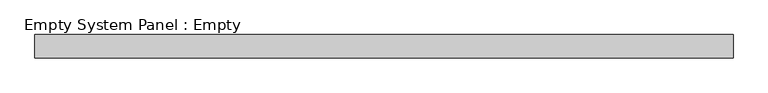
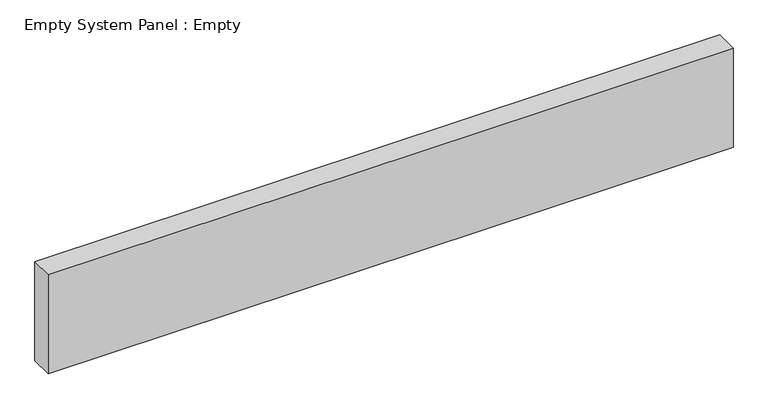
"""IFC4 building model written with IfcOpenShell, lengths in millimetres: plate geometry, Empty System Panel : Empty."""

from ifc_helpers import new_model, si_unit, origin, origin_with_axes, place, context, project, spatial, polyline, outline, extrude, source, transform, mapped, element, save


def empty_system_panel_empty_78674245(model_context):
    return source(origin(), model_context, "Body", "SweptSolid", [
        extrude(outline(polyline([(1500.0, -50.0), (-1500.0, -50.0), (-1500.0, 50.0), (1500.0, 50.0), (1500.0, -50.0)])), origin_with_axes(), (0.0, 0.0, 1.0), 459.0),
    ])


if __name__ == "__main__":
    model = new_model("IFC4")
    model_context = context("Model", 3, world=origin())
    ifc_project = project(units=[si_unit("LENGTHUNIT", "METRE", prefix="MILLI")], contexts=[model_context])
    site = spatial("IfcSite", under=ifc_project)
    building = spatial("IfcBuilding", under=site)
    placement = place(None, origin())
    empty_system_panel_empty_shape = empty_system_panel_empty_78674245(model_context)
    element("IfcPlate", 1, ObjectType="Empty System Panel : Empty", at=placement, inside=building, context=model_context, shape_type="MappedRepresentation", body=[
        mapped(empty_system_panel_empty_shape, transform((0.0, 0.0, 0.0), x_axis=(1.0, 0.0, 0.0), y_axis=(0.0, 1.0, 0.0), z_axis=(0.0, 0.0, 1.0))),
    ])
    save(model, "model.ifc")
